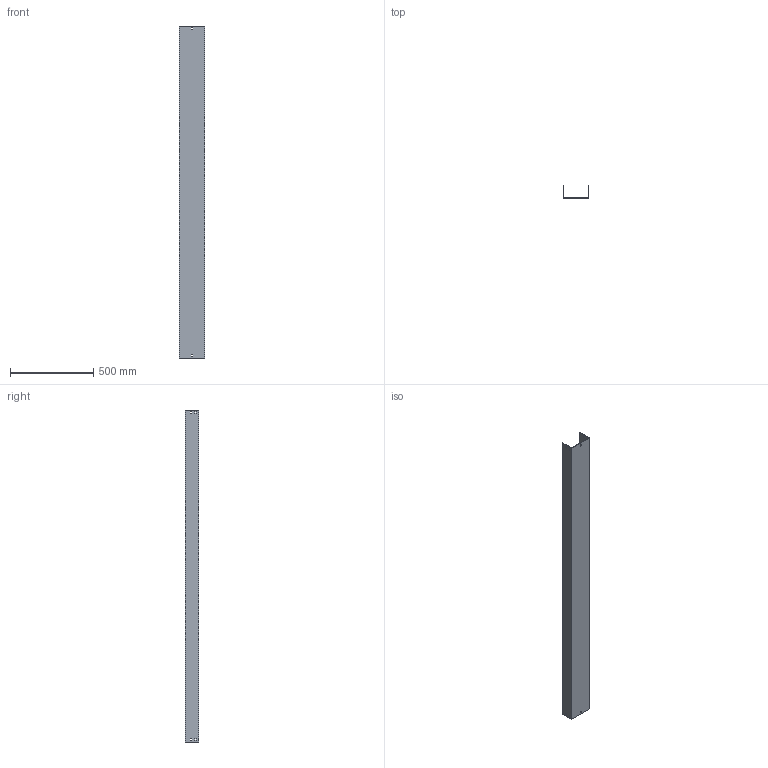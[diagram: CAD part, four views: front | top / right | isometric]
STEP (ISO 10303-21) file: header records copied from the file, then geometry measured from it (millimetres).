
FILE_DESCRIPTION (( 'STEP AP214' ), '1' );
FILE_NAME ('03F2C150.step', '2025-02-21T13:31:45', ( '' ), ( '' ), 'SwSTEP 2.0', 'SolidWorks 2023', '' );
FILE_SCHEMA (( 'AUTOMOTIVE_DESIGN' ));
Length unit declared in the file: millimetre
Products named in the file (1): 03F2C150
Bounding box: 154 x 79 x 2000 mm (x, y, z)
Volume: 2132630.5 mm3; surface area: 1235950 mm2
Topology: 1 solids, 1 shells, 50 faces, 144 edges, 96 vertices
Faces by surface type: plane 50
Entity records: 1671 total; most frequent: CARTESIAN_POINT 291, ORIENTED_EDGE 288, DIRECTION 246, LINE 144, EDGE_CURVE 144, VECTOR 144, VERTEX_POINT 96, EDGE_LOOP 70
